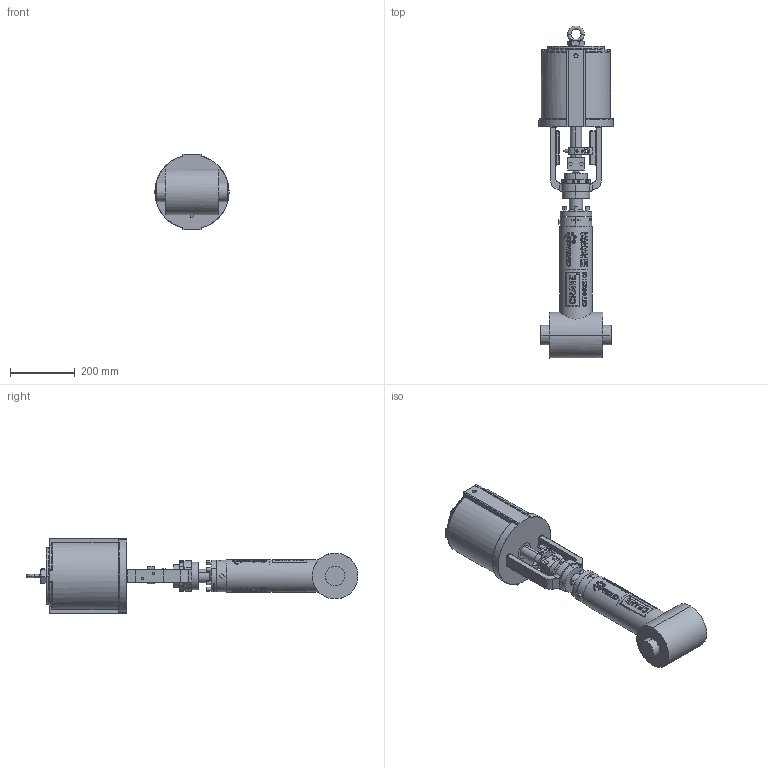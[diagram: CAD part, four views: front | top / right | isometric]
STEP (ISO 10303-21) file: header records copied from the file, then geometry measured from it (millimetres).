
FILE_DESCRIPTION (( 'STEP AP203' ), '1' );
FILE_NAME ('2IN T-PATTERN PNEUMATIC CRANE BELLOWS SEAL VALVE.step', '2025-12-17T20:07:03', ( '' ), ( '' ), 'SwSTEP 2.0', 'SolidWorks 2023', '' );
FILE_SCHEMA (( 'CONFIG_CONTROL_DESIGN' ));
Products named in the file (1): 2IN T-PATTERN PNEUMATIC CRANE BELLOWS SEAL VALVE
Bounding box: 228.48 x 1022.92 x 231.65 mm (x, y, z)
Surface area: 967867.4 mm2 (no closed solid volume)
Topology: 0 solids, 3 shells, 2744 faces, 7343 edges, 4773 vertices
Faces by surface type: plane 1153, cylinder 813, bspline 584, torus 92, cone 68, sphere 34
Full cylindrical faces by diameter (mm): 1.494 x2, 1.636 x2, 1.778 x2, 2.039 x2, 2.302 x2, 2.967 x2, 3.071 x2, 3.409 x2, 3.632 x2, 3.807 x2, 4.009 x2, 4.573 x2, 6.177 x2, 7.63 x2, 9.232 x2, 10.749 x2, 101.6 x1
Entity records: 167549 total; most frequent: CARTESIAN_POINT 112635, ORIENTED_EDGE 14375, EDGE_CURVE 7229, DIRECTION 6518, VERTEX_POINT 4767, B_SPLINE_CURVE_WITH_KNOTS 4447, EDGE_LOOP 3102, FACE_OUTER_BOUND 2793
